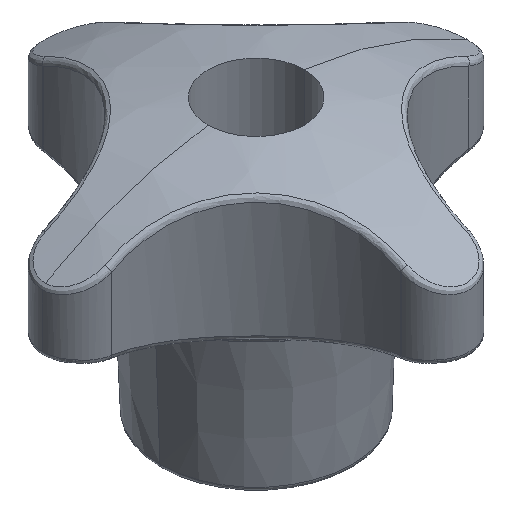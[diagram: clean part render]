
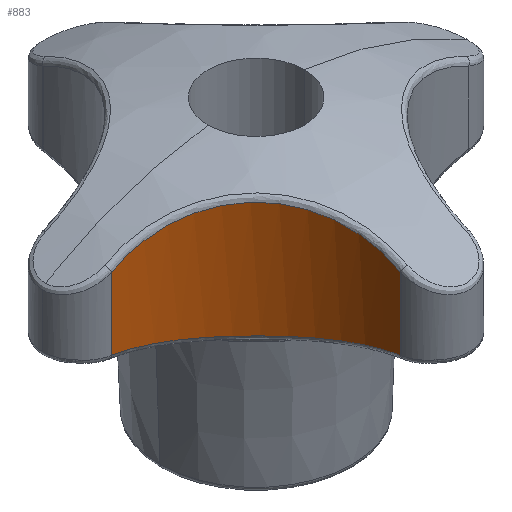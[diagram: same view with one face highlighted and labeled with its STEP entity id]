
A CAD part, isometric view. The second image highlights one B-rep face of the part: STEP entity #883.
In plain terms, the highlighted cylindrical face has radius 13.231 mm (diameter 26.462 mm), a partial arc.
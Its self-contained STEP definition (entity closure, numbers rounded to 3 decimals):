
#646 = ORIENTED_EDGE ( 'NONE', *, *, #6623, .T. ) ;
#653 = EDGE_CURVE ( 'NONE', #6602, #893, #2015, .T. ) ;
#659 = ORIENTED_EDGE ( 'NONE', *, *, #857, .T. ) ;
#674 = EDGE_LOOP ( 'NONE', ( #646, #868, #862, #659 ) ) ;
#679 = VERTEX_POINT ( 'NONE', #2018 ) ;
#857 = EDGE_CURVE ( 'NONE', #679, #1365, #2101, .T. ) ;
#862 = ORIENTED_EDGE ( 'NONE', *, *, #864, .F. ) ;
#864 = EDGE_CURVE ( 'NONE', #679, #893, #2102, .T. ) ;
#868 = ORIENTED_EDGE ( 'NONE', *, *, #653, .T. ) ;
#883 = ADVANCED_FACE ( 'NONE', ( #2204 ), #2147, .F. ) ;
#893 = VERTEX_POINT ( 'NONE', #2195 ) ;
#1365 = VERTEX_POINT ( 'NONE', #2863 ) ;
#2015 = B_SPLINE_CURVE_WITH_KNOTS ( 'NONE', 3,
 ( #2017, #2077, #2076, #2075, #2074, #2073, #2072, #2071, #2070, #2069, #2068, #2067, #2066, #2065, #2064, #2063, #2062, #2061, #2060, #2059, #2058, #2057 ),
 .UNSPECIFIED., .F., .F.,
 ( 4, 2, 2, 2, 2, 2, 2, 2, 2, 2, 4 ),
 ( 0., 0.003, 0.004, 0.005, 0.008, 0.009, 0.011, 0.013, 0.016, 0.019, 0.021 ),
 .UNSPECIFIED. ) ;
#2017 = CARTESIAN_POINT ( 'NONE',  ( -16.727, -3.18, 14.766 ) ) ;
#2018 = CARTESIAN_POINT ( 'NONE',  ( -3.199, -16.708, 21.517 ) ) ;
#2057 = CARTESIAN_POINT ( 'NONE',  ( -3.199, -16.708, 14.763 ) ) ;
#2058 = CARTESIAN_POINT ( 'NONE',  ( -3.179, -15.816, 14.601 ) ) ;
#2059 = CARTESIAN_POINT ( 'NONE',  ( -3.248, -14.934, 14.444 ) ) ;
#2060 = CARTESIAN_POINT ( 'NONE',  ( -3.562, -13.191, 14.143 ) ) ;
#2061 = CARTESIAN_POINT ( 'NONE',  ( -3.811, -12.323, 13.999 ) ) ;
#2062 = CARTESIAN_POINT ( 'NONE',  ( -4.47, -10.673, 13.749 ) ) ;
#2063 = CARTESIAN_POINT ( 'NONE',  ( -4.881, -9.883, 13.642 ) ) ;
#2064 = CARTESIAN_POINT ( 'NONE',  ( -5.876, -8.373, 13.49 ) ) ;
#2065 = CARTESIAN_POINT ( 'NONE',  ( -6.443, -7.679, 13.449 ) ) ;
#2066 = CARTESIAN_POINT ( 'NONE',  ( -7.392, -6.732, 13.45 ) ) ;
#2067 = CARTESIAN_POINT ( 'NONE',  ( -7.724, -6.431, 13.46 ) ) ;
#2068 = CARTESIAN_POINT ( 'NONE',  ( -8.424, -5.861, 13.501 ) ) ;
#2069 = CARTESIAN_POINT ( 'NONE',  ( -8.791, -5.593, 13.531 ) ) ;
#2070 = CARTESIAN_POINT ( 'NONE',  ( -9.912, -4.857, 13.645 ) ) ;
#2071 = CARTESIAN_POINT ( 'NONE',  ( -10.699, -4.447, 13.752 ) ) ;
#2072 = CARTESIAN_POINT ( 'NONE',  ( -11.939, -3.953, 13.94 ) ) ;
#2073 = CARTESIAN_POINT ( 'NONE',  ( -12.365, -3.807, 14.008 ) ) ;
#2074 = CARTESIAN_POINT ( 'NONE',  ( -13.222, -3.563, 14.149 ) ) ;
#2075 = CARTESIAN_POINT ( 'NONE',  ( -13.653, -3.463, 14.222 ) ) ;
#2076 = CARTESIAN_POINT ( 'NONE',  ( -14.955, -3.229, 14.447 ) ) ;
#2077 = CARTESIAN_POINT ( 'NONE',  ( -15.835, -3.16, 14.604 ) ) ;
#2078 = CARTESIAN_POINT ( 'NONE',  ( -9.601, -5.064, 24.044 ) ) ;
#2079 = CARTESIAN_POINT ( 'NONE',  ( -8.83, -5.565, 24.17 ) ) ;
#2080 = CARTESIAN_POINT ( 'NONE',  ( -8.453, -5.839, 24.218 ) ) ;
#2081 = CARTESIAN_POINT ( 'NONE',  ( -7.728, -6.427, 24.282 ) ) ;
#2082 = CARTESIAN_POINT ( 'NONE',  ( -7.384, -6.738, 24.297 ) ) ;
#2083 = CARTESIAN_POINT ( 'NONE',  ( -6.732, -7.392, 24.297 ) ) ;
#2084 = CARTESIAN_POINT ( 'NONE',  ( -6.423, -7.736, 24.281 ) ) ;
#2085 = CARTESIAN_POINT ( 'NONE',  ( -5.842, -8.456, 24.217 ) ) ;
#2086 = CARTESIAN_POINT ( 'NONE',  ( -5.567, -8.835, 24.168 ) ) ;
#2087 = CARTESIAN_POINT ( 'NONE',  ( -4.815, -9.999, 23.977 ) ) ;
#2088 = CARTESIAN_POINT ( 'NONE',  ( -4.407, -10.805, 23.792 ) ) ;
#2090 = DIRECTION ( 'NONE',  ( 0., 0., -1. ) ) ;
#2091 = VECTOR ( 'NONE', #2090, 1000. ) ;
#2092 = CARTESIAN_POINT ( 'NONE',  ( -3.199, -16.708, 26. ) ) ;
#2094 = CARTESIAN_POINT ( 'NONE',  ( -3.924, -12.055, 23.43 ) ) ;
#2095 = CARTESIAN_POINT ( 'NONE',  ( -3.784, -12.48, 23.294 ) ) ;
#2096 = CARTESIAN_POINT ( 'NONE',  ( -3.55, -13.335, 22.998 ) ) ;
#2097 = CARTESIAN_POINT ( 'NONE',  ( -3.456, -13.761, 22.838 ) ) ;
#2098 = CARTESIAN_POINT ( 'NONE',  ( -3.239, -15.034, 22.327 ) ) ;
#2099 = CARTESIAN_POINT ( 'NONE',  ( -3.18, -15.875, 21.944 ) ) ;
#2100 = CARTESIAN_POINT ( 'NONE',  ( -3.199, -16.708, 21.517 ) ) ;
#2101 = B_SPLINE_CURVE_WITH_KNOTS ( 'NONE', 3,
 ( #2100, #2099, #2098, #2097, #2096, #2095, #2094, #2088, #2087, #2086, #2085, #2084, #2083, #2082, #2081, #2080, #2079, #2078, #2138, #2137, #2136, #2135, #2134, #2133, #2132, #2131, #2130, #2129 ),
 .UNSPECIFIED., .F., .F.,
 ( 4, 2, 2, 2, 2, 2, 2, 2, 2, 2, 2, 2, 2, 4 ),
 ( 0., 0.003, 0.004, 0.006, 0.008, 0.01, 0.011, 0.012, 0.014, 0.015, 0.017, 0.019, 0.021, 0.022 ),
 .UNSPECIFIED. ) ;
#2102 = LINE ( 'NONE', #2092, #2091 ) ;
#2129 = CARTESIAN_POINT ( 'NONE',  ( -16.727, -3.18, 21.509 ) ) ;
#2130 = CARTESIAN_POINT ( 'NONE',  ( -16.31, -3.17, 21.723 ) ) ;
#2131 = CARTESIAN_POINT ( 'NONE',  ( -15.89, -3.18, 21.927 ) ) ;
#2132 = CARTESIAN_POINT ( 'NONE',  ( -15.041, -3.242, 22.315 ) ) ;
#2133 = CARTESIAN_POINT ( 'NONE',  ( -14.612, -3.294, 22.498 ) ) ;
#2134 = CARTESIAN_POINT ( 'NONE',  ( -13.333, -3.514, 23.012 ) ) ;
#2135 = CARTESIAN_POINT ( 'NONE',  ( -12.485, -3.745, 23.306 ) ) ;
#2136 = CARTESIAN_POINT ( 'NONE',  ( -11.221, -4.235, 23.672 ) ) ;
#2137 = CARTESIAN_POINT ( 'NONE',  ( -10.806, -4.421, 23.78 ) ) ;
#2138 = CARTESIAN_POINT ( 'NONE',  ( -9.996, -4.835, 23.966 ) ) ;
#2147 = CYLINDRICAL_SURFACE ( 'NONE', #2203, 13.231 ) ;
#2195 = CARTESIAN_POINT ( 'NONE',  ( -3.199, -16.708, 14.763 ) ) ;
#2197 = DIRECTION ( 'NONE',  ( -1., 0., 0. ) ) ;
#2198 = DIRECTION ( 'NONE',  ( 0., 0., -1. ) ) ;
#2202 = CARTESIAN_POINT ( 'NONE',  ( -16.427, -16.408, 26. ) ) ;
#2203 = AXIS2_PLACEMENT_3D ( 'NONE', #2202, #2198, #2197 ) ;
#2204 = FACE_OUTER_BOUND ( 'NONE', #674, .T. ) ;
#2863 = CARTESIAN_POINT ( 'NONE',  ( -16.727, -3.18, 21.509 ) ) ;
#3471 = DIRECTION ( 'NONE',  ( 0., 0., -1. ) ) ;
#3472 = VECTOR ( 'NONE', #3471, 1000. ) ;
#3485 = CARTESIAN_POINT ( 'NONE',  ( -16.727, -3.18, 26. ) ) ;
#3486 = LINE ( 'NONE', #3485, #3472 ) ;
#3489 = CARTESIAN_POINT ( 'NONE',  ( -16.727, -3.18, 14.766 ) ) ;
#6602 = VERTEX_POINT ( 'NONE', #3489 ) ;
#6623 = EDGE_CURVE ( 'NONE', #1365, #6602, #3486, .T. ) ;
